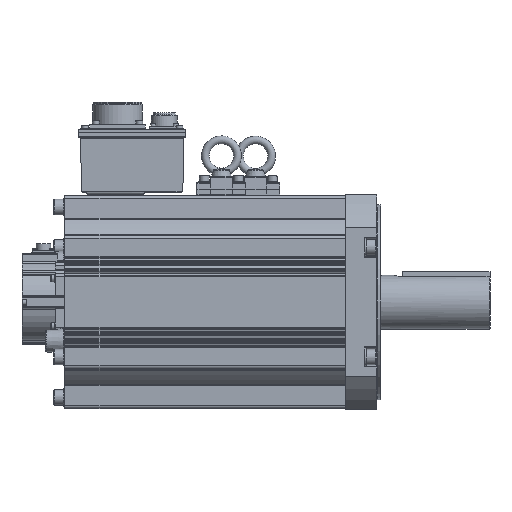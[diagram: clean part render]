
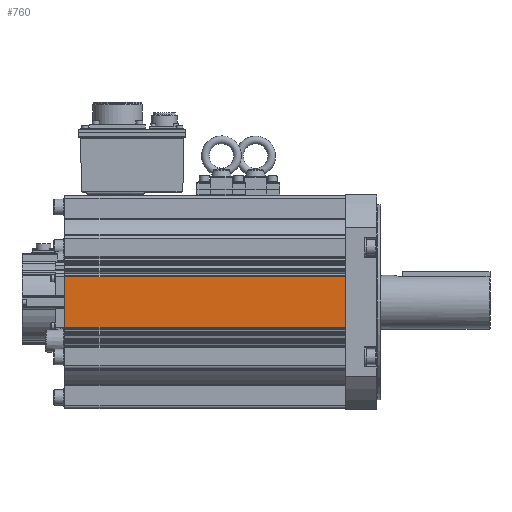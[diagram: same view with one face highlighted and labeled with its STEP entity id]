
A CAD part, top view. The second image highlights one B-rep face of the part: STEP entity #760.
In plain terms, the highlighted planar face has unit normal (0, 0, 1).
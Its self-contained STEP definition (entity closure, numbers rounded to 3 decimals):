
#760 = ADVANCED_FACE( '', ( #2741 ), #2742, .T. );
#2741 = FACE_OUTER_BOUND( '', #5120, .T. );
#2742 = PLANE( '', #5121 );
#5120 = EDGE_LOOP( '', ( #11436, #11437, #11438, #11439 ) );
#5121 = AXIS2_PLACEMENT_3D( '', #11440, #11441, #11442 );
#11436 = ORIENTED_EDGE( '', *, *, #15878, .F. );
#11437 = ORIENTED_EDGE( '', *, *, #15537, .F. );
#11438 = ORIENTED_EDGE( '', *, *, #14663, .T. );
#11439 = ORIENTED_EDGE( '', *, *, #16105, .T. );
#11440 = CARTESIAN_POINT( '', ( -320., 26., 109. ) );
#11441 = DIRECTION( '', ( 0., 0., 1. ) );
#11442 = DIRECTION( '', ( 1., 0., 0. ) );
#14663 = EDGE_CURVE( '', #17654, #17655, #17656, .T. );
#15537 = EDGE_CURVE( '', #17654, #19202, #19205, .T. );
#15878 = EDGE_CURVE( '', #19202, #19760, #19761, .T. );
#16105 = EDGE_CURVE( '', #17655, #19760, #20213, .T. );
#17654 = VERTEX_POINT( '', #22438 );
#17655 = VERTEX_POINT( '', #22439 );
#17656 = LINE( '', #22440, #22441 );
#19202 = VERTEX_POINT( '', #24992 );
#19205 = LINE( '', #24996, #24997 );
#19760 = VERTEX_POINT( '', #25905 );
#19761 = LINE( '', #25906, #25907 );
#20213 = LINE( '', #26442, #26443 );
#22438 = CARTESIAN_POINT( '', ( -320., 26., 109. ) );
#22439 = CARTESIAN_POINT( '', ( -320., -26., 109. ) );
#22440 = CARTESIAN_POINT( '', ( -320., 26., 109. ) );
#22441 = VECTOR( '', #28464, 1000. );
#24992 = CARTESIAN_POINT( '', ( -32., 26., 109. ) );
#24996 = CARTESIAN_POINT( '', ( -320., 26., 109. ) );
#24997 = VECTOR( '', #29861, 1000. );
#25905 = CARTESIAN_POINT( '', ( -32., -26., 109. ) );
#25906 = CARTESIAN_POINT( '', ( -32., 26., 109. ) );
#25907 = VECTOR( '', #30342, 1000. );
#26442 = CARTESIAN_POINT( '', ( -320., -26., 109. ) );
#26443 = VECTOR( '', #30855, 1000. );
#28464 = DIRECTION( '', ( 0., -1., 0. ) );
#29861 = DIRECTION( '', ( 1., 0., 0. ) );
#30342 = DIRECTION( '', ( 0., -1., 0. ) );
#30855 = DIRECTION( '', ( 1., 0., 0. ) );
